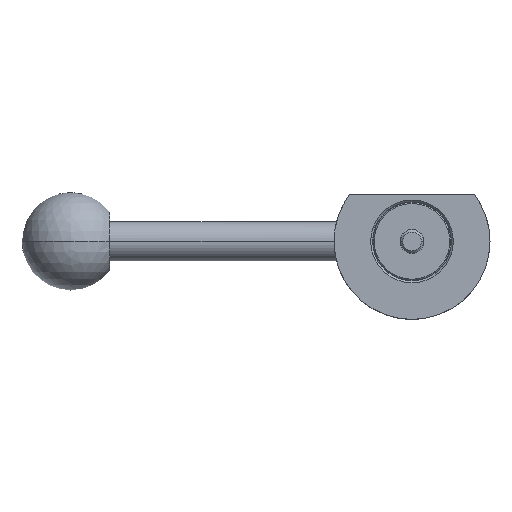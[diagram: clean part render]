
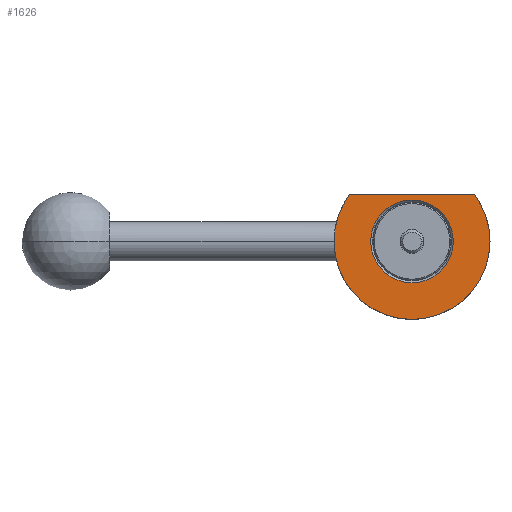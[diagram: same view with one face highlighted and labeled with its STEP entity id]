
A CAD part, front view. The second image highlights one B-rep face of the part: STEP entity #1626.
In plain terms, the highlighted planar face has unit normal (0, -1, 0).
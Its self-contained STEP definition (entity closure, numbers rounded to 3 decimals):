
#20 = CARTESIAN_POINT ( 'NONE',  ( -16.001, -10., 11.999 ) ) ;
#50 = DIRECTION ( 'NONE',  ( 0., -1., 0. ) ) ;
#132 = CIRCLE ( 'NONE', #1174, 10.6 ) ;
#145 = DIRECTION ( 'NONE',  ( -1., 0., 0. ) ) ;
#291 = CARTESIAN_POINT ( 'NONE',  ( -20., -10., 0. ) ) ;
#367 = EDGE_CURVE ( 'NONE', #924, #866, #1324, .T. ) ;
#382 = ORIENTED_EDGE ( 'NONE', *, *, #1005, .T. ) ;
#397 = DIRECTION ( 'NONE',  ( 0., 1., 0. ) ) ;
#418 = AXIS2_PLACEMENT_3D ( 'NONE', #1848, #920, #625 ) ;
#446 = AXIS2_PLACEMENT_3D ( 'NONE', #1610, #397, #1934 ) ;
#465 = VERTEX_POINT ( 'NONE', #817 ) ;
#578 = ORIENTED_EDGE ( 'NONE', *, *, #1897, .T. ) ;
#617 = CARTESIAN_POINT ( 'NONE',  ( 0., -10., 0. ) ) ;
#625 = DIRECTION ( 'NONE',  ( -1., 0., 0. ) ) ;
#668 = FACE_OUTER_BOUND ( 'NONE', #968, .T. ) ;
#673 = CIRCLE ( 'NONE', #1318, 10.6 ) ;
#758 = CIRCLE ( 'NONE', #1702, 20. ) ;
#802 = EDGE_CURVE ( 'NONE', #1238, #924, #1228, .T. ) ;
#817 = CARTESIAN_POINT ( 'NONE',  ( -10.6, -10., 0. ) ) ;
#866 = VERTEX_POINT ( 'NONE', #20 ) ;
#901 = DIRECTION ( 'NONE',  ( -1., 0., 0. ) ) ;
#920 = DIRECTION ( 'NONE',  ( 0., 1., 0. ) ) ;
#924 = VERTEX_POINT ( 'NONE', #291 ) ;
#932 = VERTEX_POINT ( 'NONE', #1111 ) ;
#968 = EDGE_LOOP ( 'NONE', ( #1272, #1347, #1733, #1130 ) ) ;
#970 = EDGE_CURVE ( 'NONE', #932, #866, #2007, .T. ) ;
#1005 = EDGE_CURVE ( 'NONE', #465, #1649, #673, .T. ) ;
#1058 = DIRECTION ( 'NONE',  ( 0., 1., 0. ) ) ;
#1071 = DIRECTION ( 'NONE',  ( 0., 1., 0. ) ) ;
#1111 = CARTESIAN_POINT ( 'NONE',  ( 16.001, -10., 11.999 ) ) ;
#1127 = FACE_BOUND ( 'NONE', #1222, .T. ) ;
#1130 = ORIENTED_EDGE ( 'NONE', *, *, #802, .F. ) ;
#1174 = AXIS2_PLACEMENT_3D ( 'NONE', #617, #1713, #901 ) ;
#1214 = CARTESIAN_POINT ( 'NONE',  ( 0., -10., 0. ) ) ;
#1222 = EDGE_LOOP ( 'NONE', ( #578, #382 ) ) ;
#1228 = CIRCLE ( 'NONE', #418, 20. ) ;
#1238 = VERTEX_POINT ( 'NONE', #1450 ) ;
#1272 = ORIENTED_EDGE ( 'NONE', *, *, #1935, .F. ) ;
#1279 = DIRECTION ( 'NONE',  ( 1., 0., 0. ) ) ;
#1318 = AXIS2_PLACEMENT_3D ( 'NONE', #1214, #1058, #1844 ) ;
#1324 = CIRCLE ( 'NONE', #446, 20. ) ;
#1347 = ORIENTED_EDGE ( 'NONE', *, *, #970, .T. ) ;
#1430 = CARTESIAN_POINT ( 'NONE',  ( -10.6, -10., 0. ) ) ;
#1450 = CARTESIAN_POINT ( 'NONE',  ( 20., -10., 0. ) ) ;
#1516 = CARTESIAN_POINT ( 'NONE',  ( 0., -10., 0. ) ) ;
#1578 = CARTESIAN_POINT ( 'NONE',  ( 10.6, -10., 0. ) ) ;
#1610 = CARTESIAN_POINT ( 'NONE',  ( 0., -10., 0. ) ) ;
#1626 = ADVANCED_FACE ( 'NONE', ( #1127, #668 ), #1774, .T. ) ;
#1649 = VERTEX_POINT ( 'NONE', #1578 ) ;
#1698 = DIRECTION ( 'NONE',  ( -1., 0., 0. ) ) ;
#1702 = AXIS2_PLACEMENT_3D ( 'NONE', #1516, #1071, #1698 ) ;
#1713 = DIRECTION ( 'NONE',  ( 0., 1., 0. ) ) ;
#1733 = ORIENTED_EDGE ( 'NONE', *, *, #367, .F. ) ;
#1774 = PLANE ( 'NONE',  #1963 ) ;
#1812 = VECTOR ( 'NONE', #145, 1000. ) ;
#1844 = DIRECTION ( 'NONE',  ( -1., 0., 0. ) ) ;
#1848 = CARTESIAN_POINT ( 'NONE',  ( 0., -10., 0. ) ) ;
#1897 = EDGE_CURVE ( 'NONE', #1649, #465, #132, .T. ) ;
#1934 = DIRECTION ( 'NONE',  ( -1., 0., 0. ) ) ;
#1935 = EDGE_CURVE ( 'NONE', #932, #1238, #758, .T. ) ;
#1963 = AXIS2_PLACEMENT_3D ( 'NONE', #1430, #50, #1279 ) ;
#1999 = CARTESIAN_POINT ( 'NONE',  ( -10.6, -10., 11.999 ) ) ;
#2007 = LINE ( 'NONE', #1999, #1812 ) ;
